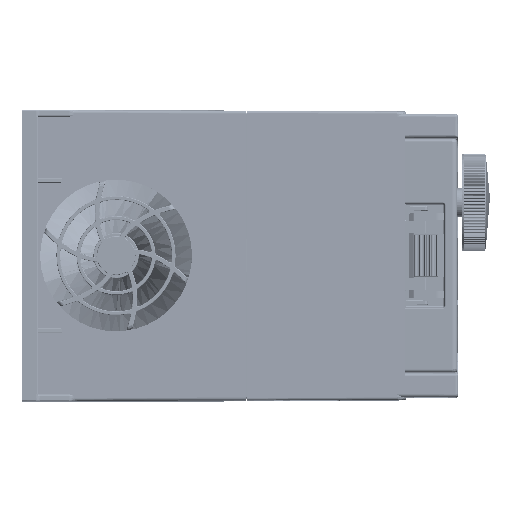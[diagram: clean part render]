
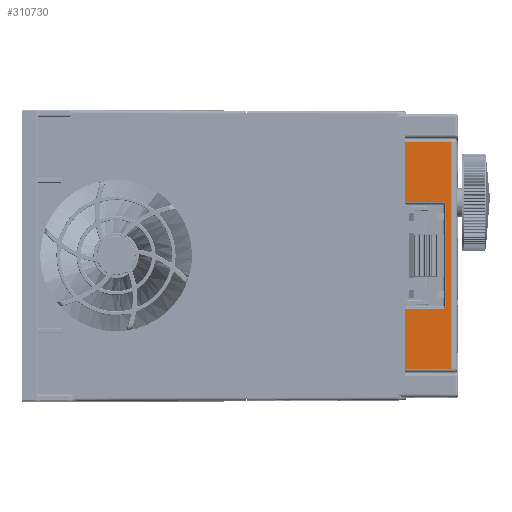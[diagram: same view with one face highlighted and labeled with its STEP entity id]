
A CAD part, top view. The second image highlights one B-rep face of the part: STEP entity #310730.
In plain terms, the highlighted planar face has unit normal (0, 0, 1) as drawn and (0, 1, 0) by its records, which use the part's own axes.
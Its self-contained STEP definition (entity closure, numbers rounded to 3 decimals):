
#292182=DIRECTION('',(0.,0.,1.));
#292183=VECTOR('',#292182,18.5);
#292184=CARTESIAN_POINT('',(0.,0.,16.5));
#292185=LINE('',#292184,#292183);
#292243=DIRECTION('',(0.,0.,1.));
#292244=VECTOR('',#292243,18.5);
#292245=CARTESIAN_POINT('',(0.,0.,-35.));
#292246=LINE('',#292245,#292244);
#299475=DIRECTION('',(-1.,0.,0.));
#299476=VECTOR('',#299475,11.5);
#299477=CARTESIAN_POINT('',(11.5,0.,16.5));
#299478=LINE('',#299477,#299476);
#299482=CARTESIAN_POINT('',(11.5,0.,15.5));
#299483=DIRECTION('',(0.,-1.,0.));
#299484=DIRECTION('',(1.,0.,0.));
#299485=AXIS2_PLACEMENT_3D('',#299482,#299483,#299484);
#299490=DIRECTION('',(0.,0.,1.));
#299491=VECTOR('',#299490,31.);
#299492=CARTESIAN_POINT('',(12.5,0.,-15.5));
#299493=LINE('',#299492,#299491);
#299497=CARTESIAN_POINT('',(11.5,0.,-15.5));
#299498=DIRECTION('',(0.,-1.,0.));
#299499=DIRECTION('',(0.,0.,-1.));
#299500=AXIS2_PLACEMENT_3D('',#299497,#299498,#299499);
#299505=DIRECTION('',(1.,0.,0.));
#299506=VECTOR('',#299505,11.5);
#299507=CARTESIAN_POINT('',(0.,0.,-16.5));
#299508=LINE('',#299507,#299506);
#299512=DIRECTION('',(1.,0.,0.));
#299513=VECTOR('',#299512,14.);
#299514=CARTESIAN_POINT('',(0.,0.,-35.));
#299515=LINE('',#299514,#299513);
#299519=DIRECTION('',(0.,0.,1.));
#299520=VECTOR('',#299519,70.);
#299521=CARTESIAN_POINT('',(14.,0.,-35.));
#299522=LINE('',#299521,#299520);
#299526=DIRECTION('',(-1.,0.,0.));
#299527=VECTOR('',#299526,14.);
#299528=CARTESIAN_POINT('',(14.,0.,35.));
#299529=LINE('',#299528,#299527);
#303037=CARTESIAN_POINT('',(0.,0.,35.));
#303039=VERTEX_POINT('',#303037);
#303056=CARTESIAN_POINT('',(0.,0.,-35.));
#303058=VERTEX_POINT('',#303056);
#303072=CARTESIAN_POINT('',(14.,0.,-35.));
#303073=CARTESIAN_POINT('',(14.,0.,35.));
#303074=VERTEX_POINT('',#303072);
#303075=VERTEX_POINT('',#303073);
#303736=CARTESIAN_POINT('',(0.,0.,16.5));
#303738=VERTEX_POINT('',#303736);
#303742=CARTESIAN_POINT('',(11.5,0.,16.5));
#303743=VERTEX_POINT('',#303742);
#303744=CARTESIAN_POINT('',(12.5,0.,15.5));
#303745=VERTEX_POINT('',#303744);
#303748=CARTESIAN_POINT('',(12.5,0.,-15.5));
#303749=VERTEX_POINT('',#303748);
#303752=CARTESIAN_POINT('',(11.5,0.,-16.5));
#303753=VERTEX_POINT('',#303752);
#303757=CARTESIAN_POINT('',(0.,0.,-16.5));
#303759=VERTEX_POINT('',#303757);
#310707=CARTESIAN_POINT('',(0.,0.,-36.));
#310708=DIRECTION('',(0.,1.,0.));
#310709=DIRECTION('',(0.,0.,1.));
#310710=AXIS2_PLACEMENT_3D('',#310707,#310708,#310709);
#310711=PLANE('',#310710);
#310713=ORIENTED_EDGE('',*,*,#310712,.F.);
#310715=ORIENTED_EDGE('',*,*,#310714,.F.);
#310717=ORIENTED_EDGE('',*,*,#310716,.F.);
#310718=ORIENTED_EDGE('',*,*,#310697,.F.);
#310720=ORIENTED_EDGE('',*,*,#310719,.F.);
#310721=ORIENTED_EDGE('',*,*,#305034,.F.);
#310723=ORIENTED_EDGE('',*,*,#310722,.T.);
#310724=ORIENTED_EDGE('',*,*,#308198,.T.);
#310726=ORIENTED_EDGE('',*,*,#310725,.T.);
#310727=ORIENTED_EDGE('',*,*,#305010,.F.);
#310728=EDGE_LOOP('',(#310713,#310715,#310717,#310718,#310720,#310721,#310723,
#310724,#310726,#310727));
#310729=FACE_OUTER_BOUND('',#310728,.F.);
#310730=ADVANCED_FACE('',(#310729),#310711,.T.);
#299486=CIRCLE('',#299485,1.);
#299501=CIRCLE('',#299500,1.);
#305010=EDGE_CURVE('',#303738,#303039,#292185,.T.);
#305034=EDGE_CURVE('',#303058,#303759,#292246,.T.);
#308198=EDGE_CURVE('',#303074,#303075,#299522,.T.);
#310697=EDGE_CURVE('',#303753,#303749,#299501,.T.);
#310712=EDGE_CURVE('',#303743,#303738,#299478,.T.);
#310714=EDGE_CURVE('',#303745,#303743,#299486,.T.);
#310716=EDGE_CURVE('',#303749,#303745,#299493,.T.);
#310719=EDGE_CURVE('',#303759,#303753,#299508,.T.);
#310722=EDGE_CURVE('',#303058,#303074,#299515,.T.);
#310725=EDGE_CURVE('',#303075,#303039,#299529,.T.);
